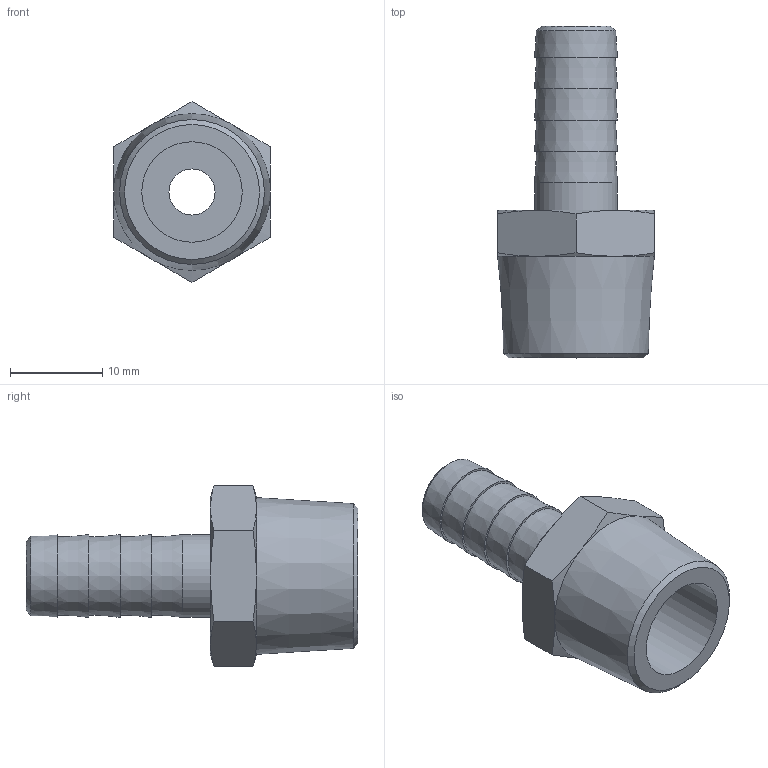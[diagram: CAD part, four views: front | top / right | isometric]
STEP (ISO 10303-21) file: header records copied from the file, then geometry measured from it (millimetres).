
FILE_DESCRIPTION(/* description */ (''),/* implementation_level */ '2;1');
FILE_NAME(/* name */ 'BXH09 09B3 00.stp',/* time_stamp */ '2026-06-22T10:56:15+02:00',/* author */ ('freju'),/* organization */ (''),/* preprocessor_version */ 'ST-DEVELOPER v20.1',/* originating_system */ 'Autodesk Inventor 2026',/* authorisation */ '');
FILE_SCHEMA (('AUTOMOTIVE_DESIGN { 1 0 10303 214 3 1 1 }'));
Length unit declared in the file: millimetre
Products named in the file (1): BXH09 08B3 00
Bounding box: 17 x 36 x 19.63 mm (x, y, z)
Volume: 3127.8 mm3; surface area: 2621.7 mm2
Topology: 1 solids, 1 shells, 37 faces, 74 edges, 45 vertices
Faces by surface type: cone 20, plane 14, cylinder 3
Full cylindrical faces by diameter (mm): 5 x1, 9 x1, 10.9 x1
Entity records: 980 total; most frequent: CARTESIAN_POINT 205, DIRECTION 159, ORIENTED_EDGE 148, EDGE_CURVE 74, AXIS2_PLACEMENT_3D 71, EDGE_LOOP 45, VERTEX_POINT 45, FACE_OUTER_BOUND 37
